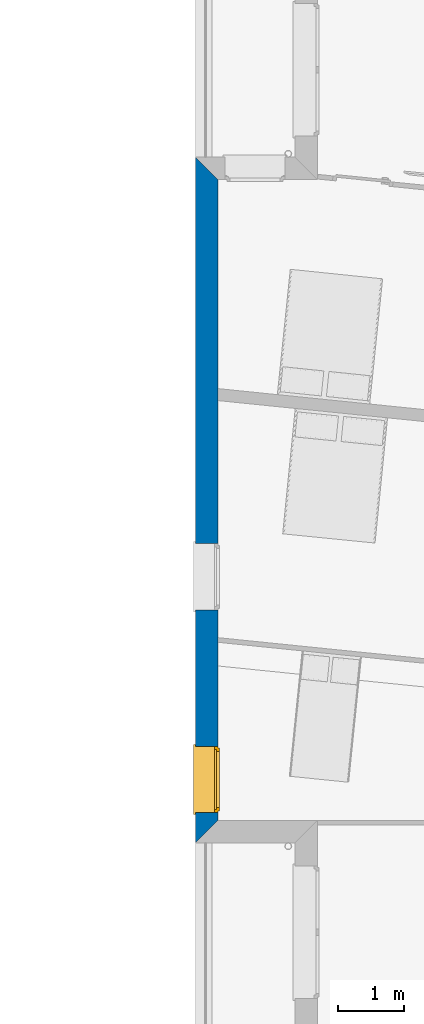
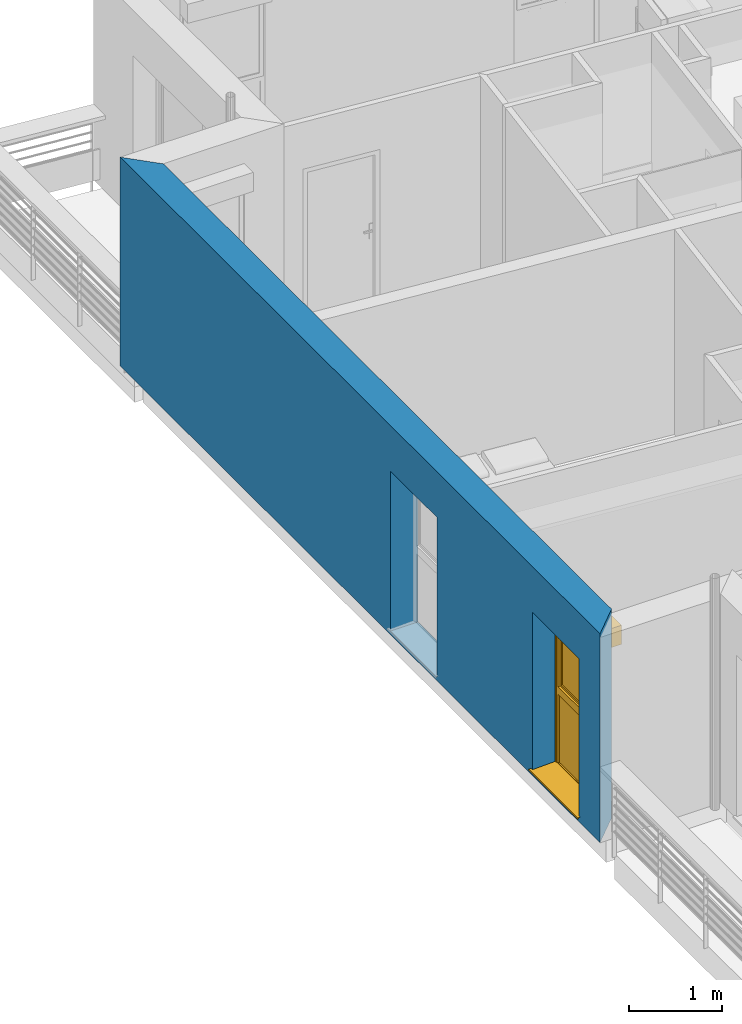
# One storey, part 61 of 171: 1 wall, 1 window, 2 openings.
"""IFC2X3 building model written with IfcOpenShell, lengths in millimetres."""

from ifc_helpers import new_model, entity, si_unit, converted_unit, derived_unit, money_unit, direction, frame, origin_with_axes, place, context, subcontext, project, spatial, polyline, outline, extrude, open_shell, faceted_brep, surface_model, source, transform, mapped, material, layer, layer_set, layer_usage, type_object, element, fill, save


model = new_model("IFC2X3")

# Units and contexts
model_context = context("Model", 3, precision=0.01, world=origin_with_axes(), true_north=direction((0.0, 1.0)))
body_context = subcontext(model_context, "Body", "Model", "MODEL_VIEW")
ifc_project = project(units=[si_unit("LENGTHUNIT", "METRE", prefix="MILLI"), si_unit("AREAUNIT", "SQUARE_METRE"), si_unit("VOLUMEUNIT", "CUBIC_METRE"), converted_unit("PLANEANGLEUNIT", "DEGREE", entity("IfcPlaneAngleMeasure", 0.0174532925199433), si_unit("PLANEANGLEUNIT", "RADIAN"), dimensions=[0, 0, 0, 0, 0, 0, 0]), money_unit("USD"), converted_unit("TIMEUNIT", "Year", entity("IfcTimeMeasure", 31557600.0), si_unit("TIMEUNIT", "SECOND"), dimensions=[0, 0, 1, 0, 0, 0, 0]), si_unit("MASSUNIT", "GRAM", prefix="KILO"), si_unit("THERMODYNAMICTEMPERATUREUNIT", "DEGREE_CELSIUS"), si_unit("LUMINOUSINTENSITYUNIT", "LUMEN"), si_unit("ENERGYUNIT", "JOULE", prefix="MEGA"), derived_unit("THERMALCONDUCTANCEUNIT", [(si_unit("POWERUNIT", "WATT"), 1), (si_unit("LENGTHUNIT", "METRE"), -1), (si_unit("THERMODYNAMICTEMPERATUREUNIT", "KELVIN"), -1)]), derived_unit("SPECIFICHEATCAPACITYUNIT", [(si_unit("ENERGYUNIT", "JOULE"), 1), (si_unit("MASSUNIT", "GRAM", prefix="KILO"), -1), (si_unit("THERMODYNAMICTEMPERATUREUNIT", "KELVIN"), -1)]), derived_unit("MASSDENSITYUNIT", [(si_unit("MASSUNIT", "GRAM", prefix="KILO"), 1), (si_unit("VOLUMEUNIT", "CUBIC_METRE"), -1)])], contexts=[model_context])

# Site, building, storey
site_placement = place(None, origin_with_axes())
site = spatial("IfcSite", under=ifc_project, at=site_placement, Name="Site", CompositionType="ELEMENT")
building_placement = place(site_placement, origin_with_axes())
building = spatial("IfcBuilding", under=site, at=building_placement, Name="Bâtiment", CompositionType="ELEMENT")
storey_placement = place(building_placement, frame((0.0, 0.0, 3000.0), z_axis=(0.0, 0.0, 1.0), x_axis=(1.0, 0.0, 0.0)))
storey = spatial("IfcBuildingStorey", under=building, at=storey_placement, Name="rdc", CompositionType="ELEMENT", Elevation=3000.0)

# Wall, openings, window
ifc_material_1 = material(Name="Parpaing 312445824")
ifc_layer_1 = layer(ifc_material_1, 180.0, ventilated="UNKNOWN")
ifc_material_2 = material(Name="Isolant styromousse 301821074")
ifc_layer_2 = layer(ifc_material_2, 160.0, ventilated="UNKNOWN")
ifc_layer_set = layer_set([ifc_layer_1, ifc_layer_2], Name="isol int 18+16 0018356637")
ifc_layer_usage = layer_usage(ifc_layer_set, "AXIS2", "POSITIVE", 0.0)
wall_type = type_object("IfcWallType", Name="isol int 18+16 0018356637 340", PredefinedType="NOTDEFINED")
wall_placement = place(storey_placement, frame((2216634.233344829, -607167.3879007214, 0.0), z_axis=(0.0, 0.0, 1.0), x_axis=(0.0, -1.0, 0.0)))
wall = element("IfcWallStandardCase", 1, at=wall_placement, inside=storey, type_object=wall_type, material=ifc_layer_usage, Name="Mur-143", context=body_context, shape_type="SweptSolid", body=[
    extrude(outline(polyline([(0.0, 0.0), (10340.11790760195, 0.0), (10000.11790760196, 340.0000000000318), (340.0000000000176, 340.0000000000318), (0.0, 0.0)])), origin_with_axes(), (0.0, 0.0, 1.0), 2750.0),
])
opening_1_placement = place(wall_placement, frame((9384.213657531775, 4.547473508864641e-10, 49.99999999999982), z_axis=(0.0, 0.0, 1.0), x_axis=(1.0, 0.0, 0.0)))
opening_1 = element("IfcOpeningElement", 2, at=opening_1_placement, cuts=wall, Name="Fen-133", context=body_context, shape_type="Brep", body=[
    faceted_brep([(-499.9999999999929, 289.9999999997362, 2100.0), (-499.9999999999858, 341.0000000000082, 2100.0), (-499.9999999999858, 341.0000000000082, 0.0), (-499.9999999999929, 289.9999999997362, 0.0), (-499.9999999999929, 279.9999999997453, 2100.0), (-499.9999999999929, 279.9999999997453, 2350.0), (-499.9999999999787, 529.9999999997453, 2350.0), (-499.9999999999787, 529.9999999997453, 2100.0), (500.0000000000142, 341.0000000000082, 2100.0), (500.0000000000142, 341.0000000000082, 0.0), (500.0000000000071, 289.9999999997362, 0.0), (500.0, -1.000000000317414, 0.0), (-500.0, -1.000000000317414, 0.0), (-500.0, -1.000000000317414, 2100.0), (500.0000000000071, 279.9999999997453, 2100.0), (500.0000000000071, 279.9999999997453, 2350.0), (500.0000000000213, 529.9999999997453, 2350.0), (500.0000000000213, 529.9999999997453, 2100.0), (500.0000000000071, 289.9999999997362, 2100.0), (500.0, -1.000000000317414, 2100.0)], [[[0, 1, 2, 3]], [[1, 0, 4, 5, 6, 7]], [[1, 8, 9, 2]], [[10, 11, 12, 3, 2, 9]], [[4, 0, 3, 12, 13]], [[4, 14, 15, 5]], [[15, 16, 6, 5]], [[16, 17, 7, 6]], [[8, 1, 7, 17]], [[8, 18, 10, 9]], [[18, 14, 19, 11, 10]], [[13, 12, 11, 19]], [[14, 4, 13, 19]], [[18, 8, 17, 16, 15, 14]]]),
])
opening_2_placement = place(wall_placement, frame((6327.743476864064, 3.410605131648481e-10, 49.99999999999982), z_axis=(0.0, 0.0, 1.0), x_axis=(1.0, 0.0, 0.0)))
element("IfcOpeningElement", 3, at=opening_2_placement, cuts=wall, Name="Fen-133", context=body_context, shape_type="Brep", body=[
    faceted_brep([(-499.9999999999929, 289.9999999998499, 2100.0), (-499.9999999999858, 341.0000000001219, 2100.0), (-499.9999999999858, 341.0000000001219, 0.0), (-499.9999999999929, 289.9999999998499, 0.0), (-499.9999999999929, 279.999999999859, 2100.0), (-499.9999999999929, 279.999999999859, 2350.0), (-499.9999999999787, 529.999999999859, 2350.0), (-499.9999999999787, 529.999999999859, 2100.0), (500.0000000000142, 341.0000000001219, 2100.0), (500.0000000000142, 341.0000000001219, 0.0), (500.0000000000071, 289.9999999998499, 0.0), (500.0, -1.000000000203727, 0.0), (-500.0, -1.000000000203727, 0.0), (-500.0, -1.000000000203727, 2100.0), (500.0000000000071, 279.999999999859, 2100.0), (500.0000000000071, 279.999999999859, 2350.0), (500.0000000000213, 529.999999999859, 2350.0), (500.0000000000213, 529.999999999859, 2100.0), (500.0000000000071, 289.9999999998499, 2100.0), (500.0, -1.000000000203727, 2100.0)], [[[0, 1, 2, 3]], [[1, 0, 4, 5, 6, 7]], [[1, 8, 9, 2]], [[10, 11, 12, 3, 2, 9]], [[4, 0, 3, 12, 13]], [[4, 14, 15, 5]], [[6, 5, 15, 16]], [[7, 6, 16, 17]], [[8, 1, 7, 17]], [[8, 18, 10, 9]], [[18, 14, 19, 11, 10]], [[13, 12, 11, 19]], [[14, 4, 13, 19]], [[18, 8, 17, 16, 15, 14]]]),
])
window_style = type_object("IfcWindowStyle", Name="Fenêtre 27", ConstructionType="NOTDEFINED", OperationType="DOUBLE_PANEL_HORIZONTAL", ParameterTakesPrecedence=False, Sizeable=False)
shared_shape = source(origin_with_axes(), body_context, "Body", "SurfaceModel", [
    surface_model("IfcShellBasedSurfaceModel", [(500.0, -51.00000000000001, 40.00000000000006), (500.0, -51.00000000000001, 50.00000000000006), (-500.0, -51.00000000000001, 50.0), (-500.0, -51.00000000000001, 40.0), (530.0, -369.9999999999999, 28.96551724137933), (530.0, -339.9999999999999, 30.00324289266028), (500.0, -339.9999999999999, 30.00324289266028), (-500.0, -339.9999999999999, 30.00324289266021), (-530.0, -339.9999999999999, 30.00324289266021), (-530.0, -369.9999999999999, 28.96551724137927), (530.0, -369.9999999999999, 8.96551724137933), (-530.0, -369.9999999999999, 8.965517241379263), (530.0, -359.9999999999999, 18.96551724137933), (-530.0, -359.9999999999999, 18.96551724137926)], [open_shell([[[0, 1, 2, 3]], [[4, 5, 6, 0, 3, 7, 8, 9]], [[10, 4, 9, 11]], [[12, 10, 11, 13]]])]),
    faceted_brep([(-500.0, -59.99999999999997, 2350.0), (-497.0, -59.99999999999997, 2350.0), (-497.0, 190.0, 2350.0), (-500.0, 190.0, 2350.0), (-500.0, -59.99999999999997, 2100.0), (-497.0, -59.99999999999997, 2100.0), (-497.0, 190.0, 2100.0), (-500.0, 190.0, 2100.0)], [[[0, 1, 2, 3]], [[4, 5, 1, 0]], [[1, 5, 6, 2]], [[3, 2, 6, 7]], [[0, 3, 7, 4]], [[7, 6, 5, 4]]]),
    faceted_brep([(497.0, -59.99999999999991, 2350.0), (500.0, -59.99999999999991, 2350.0), (500.0, 190.0000000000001, 2350.0), (497.0, 190.0000000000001, 2350.0), (497.0, -59.99999999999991, 2100.0), (500.0, -59.99999999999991, 2100.0), (500.0, 190.0000000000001, 2100.0), (497.0, 190.0000000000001, 2100.0)], [[[0, 1, 2, 3]], [[4, 5, 1, 0]], [[1, 5, 6, 2]], [[3, 2, 6, 7]], [[0, 3, 7, 4]], [[7, 6, 5, 4]]]),
    faceted_brep([(-497.0, -60.0, 2100.0), (497.0, -59.99999999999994, 2100.0), (497.0, -59.99999999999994, 2350.0), (-497.0, -60.0, 2350.0), (-497.0, -56.99999999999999, 2100.0), (497.0, -56.99999999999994, 2100.0), (497.0, -56.99999999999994, 2347.0), (497.0, 187.0000000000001, 2347.0), (497.0, 187.0000000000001, 2103.0), (497.0, -37.99999999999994, 2103.0), (497.0, -37.99999999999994, 2100.0), (497.0, 190.0000000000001, 2100.0), (497.0, 190.0000000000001, 2350.0), (-497.0, 190.0, 2350.0), (-497.0, 190.0, 2100.0), (-497.0, -37.99999999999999, 2100.0), (-497.0, -37.99999999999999, 2103.0), (-497.0, 187.0, 2103.0), (-497.0, 187.0, 2347.0), (-497.0, -56.99999999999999, 2347.0)], [[[0, 1, 2, 3]], [[4, 5, 1, 0]], [[1, 5, 6, 7, 8, 9, 10, 11, 12, 2]], [[3, 2, 12, 13]], [[0, 3, 13, 14, 15, 16, 17, 18, 19, 4]], [[19, 6, 5, 4]], [[18, 7, 6, 19]], [[17, 8, 7, 18]], [[16, 9, 8, 17]], [[15, 10, 9, 16]], [[14, 11, 10, 15]], [[13, 12, 11, 14]]]),
    faceted_brep([(-494.0, -40.37442957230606, 2206.419644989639), (-494.0, -41.99999999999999, 2225.0), (-494.0, -40.37442957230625, 2243.580355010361), (-494.0, -35.54711042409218, 2261.596155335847), (-494.0, -27.66471820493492, 2278.5), (-494.0, -16.96675541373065, 2293.77827423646), (-494.0, -3.778274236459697, 2306.966755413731), (-494.0, 11.5, 2317.664718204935), (-494.0, 28.40384466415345, 2325.547110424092), (-494.0, 46.41964498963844, 2330.374429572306), (-494.0, 64.99999999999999, 2332.0), (-494.0, 83.58035501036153, 2330.374429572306), (-494.0, 101.5961553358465, 2325.547110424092), (-494.0, 118.5, 2317.664718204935), (-494.0, 133.7782742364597, 2306.966755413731), (-494.0, 146.9667554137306, 2293.77827423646), (-494.0, 157.6647182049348, 2278.5), (-494.0, 165.5471104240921, 2261.596155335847), (-494.0, 170.3744295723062, 2243.580355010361), (-494.0, 171.9999999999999, 2225.0), (-494.0, 170.3744295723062, 2206.419644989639), (-494.0, 165.5471104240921, 2188.403844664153), (-494.0, 157.6647182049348, 2171.5), (-494.0, 146.9667554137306, 2156.22172576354), (-494.0, 133.7782742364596, 2143.03324458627), (-494.0, 118.4999999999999, 2132.335281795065), (-494.0, 101.5961553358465, 2124.452889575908), (-494.0, 83.58035501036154, 2119.625570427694), (-494.0, 65.00000000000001, 2118.0), (-494.0, 46.4196449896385, 2119.625570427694), (-494.0, 28.40384466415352, 2124.452889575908), (-494.0, 11.50000000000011, 2132.335281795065), (-494.0, -3.778274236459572, 2143.03324458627), (-494.0, -16.9667554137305, 2156.22172576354), (-494.0, -27.66471820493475, 2171.5), (-494.0, -35.54711042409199, 2188.403844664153), (494.0, -40.374429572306, 2206.419644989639), (494.0, -41.99999999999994, 2225.0), (494.0, -40.37442957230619, 2243.580355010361), (494.0, -35.54711042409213, 2261.596155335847), (494.0, -27.66471820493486, 2278.5), (494.0, -16.96675541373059, 2293.77827423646), (494.0, -3.778274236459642, 2306.966755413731), (494.0, 11.50000000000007, 2317.664718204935), (494.0, 28.40384466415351, 2325.547110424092), (494.0, 46.41964498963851, 2330.374429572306), (494.0, 65.00000000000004, 2332.0), (494.0, 83.58035501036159, 2330.374429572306), (494.0, 101.5961553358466, 2325.547110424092), (494.0, 118.5, 2317.664718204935), (494.0, 133.7782742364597, 2306.966755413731), (494.0, 146.9667554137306, 2293.77827423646), (494.0, 157.6647182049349, 2278.5), (494.0, 165.5471104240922, 2261.596155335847), (494.0, 170.3744295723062, 2243.580355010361), (494.0, 172.0, 2225.0), (494.0, 170.3744295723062, 2206.419644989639), (494.0, 165.5471104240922, 2188.403844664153), (494.0, 157.6647182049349, 2171.5), (494.0, 146.9667554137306, 2156.22172576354), (494.0, 133.7782742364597, 2143.03324458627), (494.0, 118.5, 2132.335281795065), (494.0, 101.5961553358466, 2124.452889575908), (494.0, 83.5803550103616, 2119.625570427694), (494.0, 65.00000000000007, 2118.0), (494.0, 46.41964498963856, 2119.625570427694), (494.0, 28.40384466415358, 2124.452889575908), (494.0, 11.50000000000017, 2132.335281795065), (494.0, -3.778274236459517, 2143.03324458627), (494.0, -16.96675541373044, 2156.22172576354), (494.0, -27.6647182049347, 2171.5), (494.0, -35.54711042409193, 2188.403844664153)], [[[0, 1, 2, 3, 4, 5, 6, 7, 8, 9, 10, 11, 12, 13, 14, 15, 16, 17, 18, 19, 20, 21, 22, 23, 24, 25, 26, 27, 28, 29, 30, 31, 32, 33, 34, 35]], [[0, 36, 37, 1]], [[1, 37, 38, 2]], [[2, 38, 39, 3]], [[3, 39, 40, 4]], [[4, 40, 41, 5]], [[5, 41, 42, 6]], [[6, 42, 43, 7]], [[7, 43, 44, 8]], [[8, 44, 45, 9]], [[9, 45, 46, 10]], [[10, 46, 47, 11]], [[11, 47, 48, 12]], [[12, 48, 49, 13]], [[13, 49, 50, 14]], [[14, 50, 51, 15]], [[15, 51, 52, 16]], [[16, 52, 53, 17]], [[17, 53, 54, 18]], [[18, 54, 55, 19]], [[19, 55, 56, 20]], [[20, 56, 57, 21]], [[21, 57, 58, 22]], [[22, 58, 59, 23]], [[23, 59, 60, 24]], [[24, 60, 61, 25]], [[25, 61, 62, 26]], [[26, 62, 63, 27]], [[27, 63, 64, 28]], [[28, 64, 65, 29]], [[29, 65, 66, 30]], [[30, 66, 67, 31]], [[31, 67, 68, 32]], [[32, 68, 69, 33]], [[33, 69, 70, 34]], [[34, 70, 71, 35]], [[35, 71, 36, 0]], [[36, 71, 70, 69, 68, 67, 66, 65, 64, 63, 62, 61, 60, 59, 58, 57, 56, 55, 54, 53, 52, 51, 50, 49, 48, 47, 46, 45, 44, 43, 42, 41, 40, 39, 38, 37]]]),
    faceted_brep([(500.0, -34.99999999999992, 30.0), (500.0, -34.99999999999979, 2100.0), (500.0, -59.99999999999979, 2100.0), (500.0, -59.99999999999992, 30.0), (475.0, -34.99999999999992, 30.0), (475.0, -34.99999999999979, 2100.0), (475.0, -37.99999999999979, 2100.0), (497.0, -37.99999999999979, 2100.0), (497.0, -56.99999999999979, 2100.0), (475.0, -56.99999999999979, 2100.0), (475.0, -59.99999999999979, 2100.0), (475.0, -59.99999999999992, 30.0), (475.0, -56.99999999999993, 30.0), (497.0, -56.99999999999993, 30.0), (497.0, -37.99999999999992, 30.0), (475.0, -37.99999999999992, 30.0)], [[[0, 1, 2, 3]], [[4, 5, 1, 0]], [[1, 5, 6, 7, 8, 9, 10, 2]], [[3, 2, 10, 11]], [[0, 3, 11, 12, 13, 14, 15, 4]], [[15, 6, 5, 4]], [[14, 7, 6, 15]], [[13, 8, 7, 14]], [[12, 9, 8, 13]], [[11, 10, 9, 12]]]),
    faceted_brep([(-500.0, -34.99999999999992, 30.0), (-500.0, -59.99999999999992, 30.0), (-500.0, -59.99999999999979, 2100.0), (-500.0, -34.99999999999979, 2100.0), (-475.0, -34.99999999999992, 30.0), (-475.0, -37.99999999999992, 30.0), (-497.0, -37.99999999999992, 30.0), (-497.0, -56.99999999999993, 30.0), (-475.0, -56.99999999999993, 30.0), (-475.0, -59.99999999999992, 30.0), (-475.0, -59.99999999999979, 2100.0), (-475.0, -56.99999999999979, 2100.0), (-497.0, -56.99999999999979, 2100.0), (-497.0, -37.99999999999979, 2100.0), (-475.0, -37.99999999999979, 2100.0), (-475.0, -34.99999999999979, 2100.0)], [[[0, 1, 2, 3]], [[0, 4, 5, 6, 7, 8, 9, 1]], [[1, 9, 10, 2]], [[3, 2, 10, 11, 12, 13, 14, 15]], [[4, 0, 3, 15]], [[5, 4, 15, 14]], [[6, 5, 14, 13]], [[7, 6, 13, 12]], [[8, 7, 12, 11]], [[9, 8, 11, 10]]]),
    faceted_brep([(497.0, -46.66666666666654, 2225.0), (497.0, -46.66666666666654, 2216.666666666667), (-497.0, -46.6666666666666, 2216.666666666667), (-497.0, -46.6666666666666, 2225.0), (497.0, -51.66666666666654, 2225.0), (497.0, -51.66666666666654, 2216.666666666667), (497.0, -49.99999999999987, 2200.0), (497.0, -44.99999999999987, 2200.0), (-497.0, -44.99999999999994, 2200.0), (-497.0, -49.99999999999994, 2200.0), (-497.0, -51.6666666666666, 2216.666666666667), (-497.0, -51.6666666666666, 2225.0)], [[[0, 1, 2, 3]], [[4, 5, 6, 7, 1, 0]], [[2, 1, 7, 8]], [[3, 2, 8, 9, 10, 11]], [[3, 11, 4, 0]], [[10, 5, 4, 11]], [[9, 6, 5, 10]], [[8, 7, 6, 9]]]),
    faceted_brep([(-497.0, -44.99999999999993, 2200.0), (497.0, -44.99999999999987, 2200.0), (497.0, -46.66666666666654, 2183.333333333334), (-497.0, -46.6666666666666, 2183.333333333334), (-497.0, -49.99999999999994, 2200.0), (497.0, -49.99999999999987, 2200.0), (497.0, -51.66666666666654, 2183.333333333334), (497.0, -51.66666666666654, 2166.666666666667), (497.0, -49.99999999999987, 2150.000000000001), (497.0, -44.99999999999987, 2150.000000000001), (497.0, -46.66666666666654, 2166.666666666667), (-497.0, -46.6666666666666, 2166.666666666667), (-497.0, -44.99999999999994, 2150.000000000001), (-497.0, -49.99999999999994, 2150.000000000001), (-497.0, -51.6666666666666, 2166.666666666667), (-497.0, -51.6666666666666, 2183.333333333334)], [[[0, 1, 2, 3]], [[4, 5, 1, 0]], [[1, 5, 6, 7, 8, 9, 10, 2]], [[3, 2, 10, 11]], [[0, 3, 11, 12, 13, 14, 15, 4]], [[15, 6, 5, 4]], [[14, 7, 6, 15]], [[13, 8, 7, 14]], [[12, 9, 8, 13]], [[11, 10, 9, 12]]]),
    faceted_brep([(-497.0, -44.99999999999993, 2150.000000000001), (497.0, -44.99999999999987, 2150.000000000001), (497.0, -46.66666666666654, 2133.333333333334), (-497.0, -46.6666666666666, 2133.333333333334), (-497.0, -49.99999999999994, 2150.000000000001), (497.0, -49.99999999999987, 2150.000000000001), (497.0, -51.66666666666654, 2133.333333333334), (497.0, -51.66666666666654, 2116.666666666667), (497.0, -49.99999999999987, 2100.000000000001), (497.0, -44.99999999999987, 2100.000000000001), (497.0, -46.66666666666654, 2116.666666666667), (-497.0, -46.6666666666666, 2116.666666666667), (-497.0, -44.99999999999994, 2100.000000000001), (-497.0, -49.99999999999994, 2100.000000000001), (-497.0, -51.6666666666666, 2116.666666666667), (-497.0, -51.6666666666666, 2133.333333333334)], [[[0, 1, 2, 3]], [[4, 5, 1, 0]], [[1, 5, 6, 7, 8, 9, 10, 2]], [[3, 2, 10, 11]], [[0, 3, 11, 12, 13, 14, 15, 4]], [[15, 6, 5, 4]], [[14, 7, 6, 15]], [[13, 8, 7, 14]], [[12, 9, 8, 13]], [[11, 10, 9, 12]]]),
    faceted_brep([(-475.0000000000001, 0.0, 2050.0), (-500.0, 0.0, 2050.0), (-500.0, -50.00000000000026, 2050.0), (-450.0, -50.00000000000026, 2050.0), (-450.0, -25.00000000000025, 2050.0), (-475.0000000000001, -25.00000000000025, 2050.0), (-475.0000000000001, 0.0, 1025.0), (-450.0, 0.0, 1025.0), (-450.0, 0.0, 950.0), (-450.0, 0.0, 50.00000000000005), (-500.0, 0.0, 50.00000000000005), (-500.0, -50.00000000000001, 50.00000000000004), (-450.0, -50.00000000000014, 1050.0), (-450.0, -50.00000000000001, 50.00000000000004), (-450.0, -50.00000000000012, 950.0), (-450.0, -25.00000000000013, 1050.0), (-450.0, -25.00000000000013, 1025.0), (-475.0000000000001, -25.00000000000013, 1025.0)], [[[0, 1, 2, 3, 4, 5]], [[6, 7, 8, 9, 10, 1, 0]], [[1, 10, 11, 2]], [[12, 3, 2, 11, 13, 14]], [[4, 3, 12, 15]], [[15, 16, 17, 5, 4]], [[5, 17, 6, 0]], [[6, 17, 16, 7]], [[16, 15, 12, 14, 8, 7]], [[9, 8, 14, 13]], [[10, 9, 13, 11]]]),
    faceted_brep([(450.0, -25.00000000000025, 2050.0), (450.0, -50.00000000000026, 2050.0), (500.0, -50.00000000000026, 2050.0), (500.0, 0.0, 2050.0), (475.0000000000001, 0.0, 2050.0), (475.0000000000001, -25.00000000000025, 2050.0), (450.0, -25.00000000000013, 1050.0), (450.0, -50.00000000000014, 1050.0), (500.0, -50.00000000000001, 50.00000000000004), (450.0, -50.00000000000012, 950.0), (450.0, -50.00000000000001, 50.00000000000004), (500.0, 0.0, 50.00000000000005), (475.0000000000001, 0.0, 1025.0), (450.0, 0.0, 50.00000000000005), (450.0, 0.0, 950.0), (450.0, 0.0, 1025.0), (475.0000000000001, -25.00000000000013, 1025.0), (450.0, -25.00000000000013, 1025.0)], [[[0, 1, 2, 3, 4, 5]], [[6, 7, 1, 0]], [[8, 2, 1, 7, 9, 10]], [[11, 3, 2, 8]], [[12, 4, 3, 11, 13, 14, 15]], [[12, 16, 5, 4]], [[5, 16, 17, 6, 0]], [[17, 15, 14, 9, 7, 6]], [[14, 13, 10, 9]], [[13, 11, 8, 10]], [[15, 17, 16, 12]]]),
    faceted_brep([(-450.0, -25.00000000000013, 1050.0), (-450.0, -50.00000000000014, 1050.0), (450.0, -50.00000000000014, 1050.0), (450.0, -25.00000000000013, 1050.0), (-450.0, -25.00000000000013, 1025.0), (-450.0, 0.0, 1025.0), (-450.0, 0.0, 950.0), (-450.0, -50.00000000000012, 950.0), (450.0, -50.00000000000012, 950.0), (450.0, -25.00000000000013, 1025.0), (450.0, 0.0, 950.0), (450.0, 0.0, 1025.0)], [[[0, 1, 2, 3]], [[4, 5, 6, 7, 1, 0]], [[8, 2, 1, 7]], [[9, 3, 2, 8, 10, 11]], [[9, 4, 0, 3]], [[5, 4, 9, 11]], [[11, 10, 6, 5]], [[6, 10, 8, 7]]]),
    faceted_brep([(-475.0000000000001, 0.0, 2050.0), (-500.0, 0.0, 2050.0), (-500.0, 0.0, 2100.0), (500.0, 0.0, 2100.0), (500.0, 0.0, 2050.0), (475.0000000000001, 0.0, 2050.0), (475.0000000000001, 0.0, 2075.0), (-475.0000000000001, 0.0, 2075.0), (-475.0000000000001, -25.00000000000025, 2050.0), (-450.0, -25.00000000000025, 2050.0), (-450.0, -50.00000000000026, 2050.0), (-500.0, -50.00000000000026, 2050.0), (-500.0, -50.00000000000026, 2100.0), (500.0, -50.00000000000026, 2100.0), (500.0, -50.00000000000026, 2050.0), (475.0000000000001, -25.00000000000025, 2050.0), (450.0, -50.00000000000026, 2050.0), (450.0, -25.00000000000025, 2050.0), (475.0000000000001, -25.00000000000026, 2075.0), (-475.0000000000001, -25.00000000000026, 2075.0)], [[[0, 1, 2, 3, 4, 5, 6, 7]], [[8, 9, 10, 11, 1, 0]], [[2, 1, 11, 12]], [[3, 2, 12, 13]], [[4, 3, 13, 14]], [[15, 5, 4, 14, 16, 17]], [[5, 15, 18, 6]], [[6, 18, 19, 7]], [[7, 19, 8, 0]], [[17, 9, 8, 19, 18, 15]], [[17, 16, 10, 9]], [[14, 13, 12, 11, 10, 16]]]),
    faceted_brep([(-450.0, -50.00000000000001, 50.0), (-450.0, 0.0, 50.00000000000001), (-500.0, 0.0, 50.00000000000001), (-500.0, -50.00000000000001, 50.0), (450.0, -50.00000000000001, 50.0), (450.0, 0.0, 50.00000000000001), (500.0, 0.0, 50.00000000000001), (500.0, 0.0, 0.0), (-500.0, 0.0, 0.0), (-500.0, -50.0, 0.0), (500.0, -50.0, 0.0), (500.0, -50.00000000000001, 50.0)], [[[0, 1, 2, 3]], [[4, 5, 1, 0]], [[1, 5, 6, 7, 8, 2]], [[3, 2, 8, 9]], [[0, 3, 9, 10, 11, 4]], [[11, 6, 5, 4]], [[10, 7, 6, 11]], [[9, 8, 7, 10]]]),
    faceted_brep([(-425.0000000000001, -25.00000000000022, 2025.0), (-425.0000000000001, 24.99999999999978, 2025.0), (-475.0000000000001, 24.99999999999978, 2025.0), (-475.0000000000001, -25.00000000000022, 2025.0), (-425.0000000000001, -25.00000000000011, 1075.0), (-425.0000000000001, 24.9999999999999, 1075.0), (-475.0000000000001, 24.9999999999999, 1075.0), (-475.0000000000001, -25.0000000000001, 1075.0)], [[[0, 1, 2, 3]], [[4, 5, 1, 0]], [[1, 5, 6, 2]], [[3, 2, 6, 7]], [[0, 3, 7, 4]], [[7, 6, 5, 4]]]),
    faceted_brep([(425.0000000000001, -25.00000000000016, 1075.0), (425.0000000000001, 24.99999999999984, 1075.0), (475.0000000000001, 24.99999999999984, 1075.0), (475.0000000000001, -25.00000000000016, 1075.0), (425.0000000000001, -25.00000000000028, 2025.0), (425.0000000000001, 24.99999999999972, 2025.0), (475.0000000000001, 24.99999999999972, 2025.0), (475.0000000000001, -25.00000000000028, 2025.0)], [[[0, 1, 2, 3]], [[4, 5, 1, 0]], [[1, 5, 6, 2]], [[3, 2, 6, 7]], [[0, 3, 7, 4]], [[7, 6, 5, 4]]]),
    faceted_brep([(475.0000000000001, -25.00000000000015, 1025.0), (475.0000000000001, 24.99999999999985, 1025.0), (475.0000000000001, 24.99999999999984, 1075.0), (475.0000000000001, -25.00000000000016, 1075.0), (-475.0000000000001, -25.0000000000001, 1025.0), (-475.0000000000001, 24.9999999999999, 1025.0), (-475.0000000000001, 24.9999999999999, 1075.0), (-425.0000000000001, 24.9999999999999, 1075.0), (425.0000000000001, 24.99999999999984, 1075.0), (425.0000000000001, -25.00000000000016, 1075.0), (-425.0000000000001, -25.00000000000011, 1075.0), (-475.0000000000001, -25.0000000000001, 1075.0)], [[[0, 1, 2, 3]], [[4, 5, 1, 0]], [[1, 5, 6, 7, 8, 2]], [[3, 2, 8, 9]], [[0, 3, 9, 10, 11, 4]], [[11, 6, 5, 4]], [[10, 7, 6, 11]], [[9, 8, 7, 10]]]),
    faceted_brep([(-475.0000000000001, -25.00000000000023, 2075.0), (-475.0000000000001, 24.99999999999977, 2075.0), (-475.0000000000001, 24.99999999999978, 2025.0), (-475.0000000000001, -25.00000000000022, 2025.0), (475.0000000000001, -25.00000000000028, 2075.0), (475.0000000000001, 24.99999999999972, 2075.0), (475.0000000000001, 24.99999999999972, 2025.0), (425.0000000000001, 24.99999999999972, 2025.0), (-425.0000000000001, 24.99999999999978, 2025.0), (-425.0000000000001, -25.00000000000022, 2025.0), (425.0000000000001, -25.00000000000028, 2025.0), (475.0000000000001, -25.00000000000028, 2025.0)], [[[0, 1, 2, 3]], [[4, 5, 1, 0]], [[1, 5, 6, 7, 8, 2]], [[3, 2, 8, 9]], [[0, 3, 9, 10, 11, 4]], [[11, 6, 5, 4]], [[10, 7, 6, 11]], [[9, 8, 7, 10]]]),
    surface_model("IfcShellBasedSurfaceModel", [(-425.0000000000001, -10.00000000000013, 1075.0), (425.0000000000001, -10.00000000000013, 1075.0), (425.0000000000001, -10.00000000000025, 2025.0), (-425.0000000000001, -10.00000000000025, 2025.0)], [open_shell([[[0, 1, 2, 3]]])]),
    surface_model("IfcShellBasedSurfaceModel", [(-425.0000000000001, 9.999999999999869, 1075.0), (-425.0000000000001, 9.999999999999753, 2025.0), (425.0000000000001, 9.999999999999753, 2025.0), (425.0000000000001, 9.999999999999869, 1075.0)], [open_shell([[[0, 1, 2, 3]]])]),
    surface_model("IfcShellBasedSurfaceModel", [(-450.0, -35.0, 49.99999999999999), (450.0, -35.0, 49.99999999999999), (450.0, -35.00000000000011, 950.0), (-450.0, -35.00000000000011, 950.0)], [open_shell([[[0, 1, 2, 3]]])]),
    surface_model("IfcShellBasedSurfaceModel", [(-450.0, -15.0, 49.99999999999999), (-450.0, -15.00000000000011, 950.0), (450.0, -15.00000000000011, 950.0), (450.0, -15.0, 49.99999999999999)], [open_shell([[[0, 1, 2, 3]]])]),
])
window_placement = place(opening_1_placement, frame((-499.9999999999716, 0.0, 0.0), z_axis=(0.0, 0.0, 1.0), x_axis=(1.0, 0.0, 0.0)))
window = element("IfcWindow", 4, at=window_placement, inside=storey, type_object=window_style, Name="Fen-133", OverallHeight=2100.0, OverallWidth=1000.0, context=body_context, shape_type="MappedRepresentation", body=[
    mapped(shared_shape, transform((500.0000000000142, 339.9999999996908, 0.0))),
])
fill(opening_1, window)

save(model, "model.ifc")
